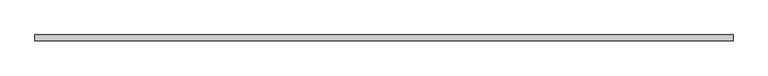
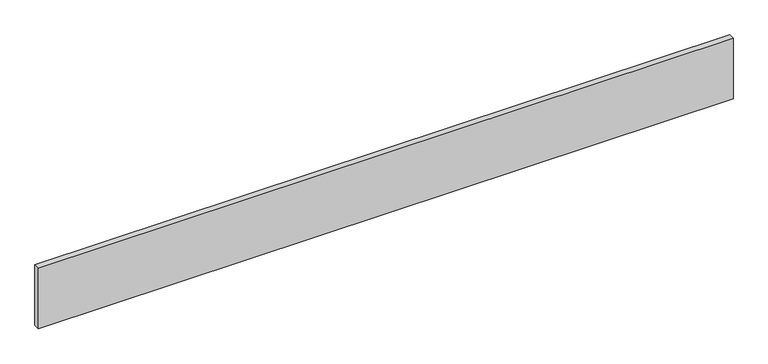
"""IFC4 building model written with IfcOpenShell, lengths in millimetres: beam geometry, Trus Joist - Rim Board Material : TJ® Rim Board – 11 7/8 x 1 1/8”."""

from ifc_helpers import new_model, si_unit, frame, origin, place, context, project, spatial, polyline, outline, extrude, source, transform, mapped, element, save


def beam_510adf8d(model_context):
    return source(origin(), model_context, "Body", "SweptSolid", [
        extrude(outline(polyline([(1638.3, -14.2875), (-1638.3, -14.2875), (-1638.3, 14.2875), (1638.3, 14.2875), (1638.3, -14.2875)])), frame((0.0, 0.0, -150.8125), z_axis=(0.0, 0.0, 1.0), x_axis=(1.0, 0.0, 0.0)), (0.0, 0.0, 1.0), 301.625),
    ])


if __name__ == "__main__":
    model = new_model("IFC4")
    model_context = context("Model", 3, world=origin())
    ifc_project = project(units=[si_unit("LENGTHUNIT", "METRE", prefix="MILLI")], contexts=[model_context])
    site = spatial("IfcSite", under=ifc_project)
    building = spatial("IfcBuilding", under=site)
    placement = place(None, origin())
    beam_shape = beam_510adf8d(model_context)
    element("IfcBeam", 1, ObjectType="Trus Joist - Rim Board Material : TJ® Rim Board – 11 7/8 x 1 1/8”", at=placement, inside=building, context=model_context, shape_type="MappedRepresentation", body=[
        mapped(beam_shape, transform((0.0, 0.0, 0.0), x_axis=(1.0, 0.0, 0.0), y_axis=(0.0, 1.0, 0.0), z_axis=(0.0, 0.0, 1.0))),
    ])
    save(model, "model.ifc")
